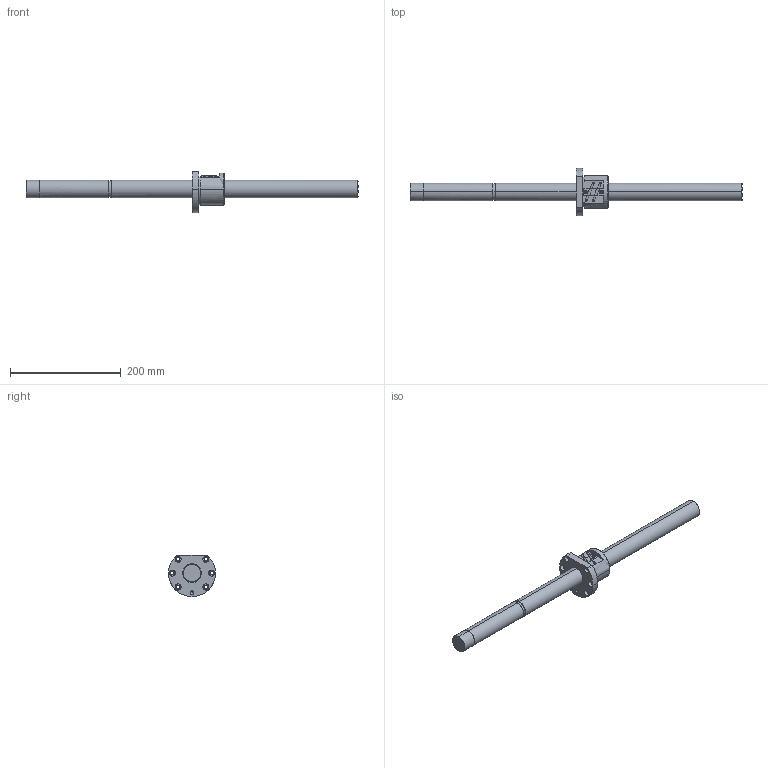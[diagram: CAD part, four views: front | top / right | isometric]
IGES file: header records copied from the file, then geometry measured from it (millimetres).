
Global section: file name: No Iges File Name specified; native system: AutoDesk Inventor R10; preprocessor: AutoDesk Inventor Iges Exporter R10; author: No Author specified; organization: No Organization specified; date: 20101224.142353; units: millimetre
Bounding box: 600 x 85 x 74.5 mm (x, y, z)
Surface area: 91589.1 mm2 (no closed solid volume)
Topology: 0 solids, 0 shells, 161 faces, 1226 edges, 1224 vertices
Faces by surface type: bspline 161
